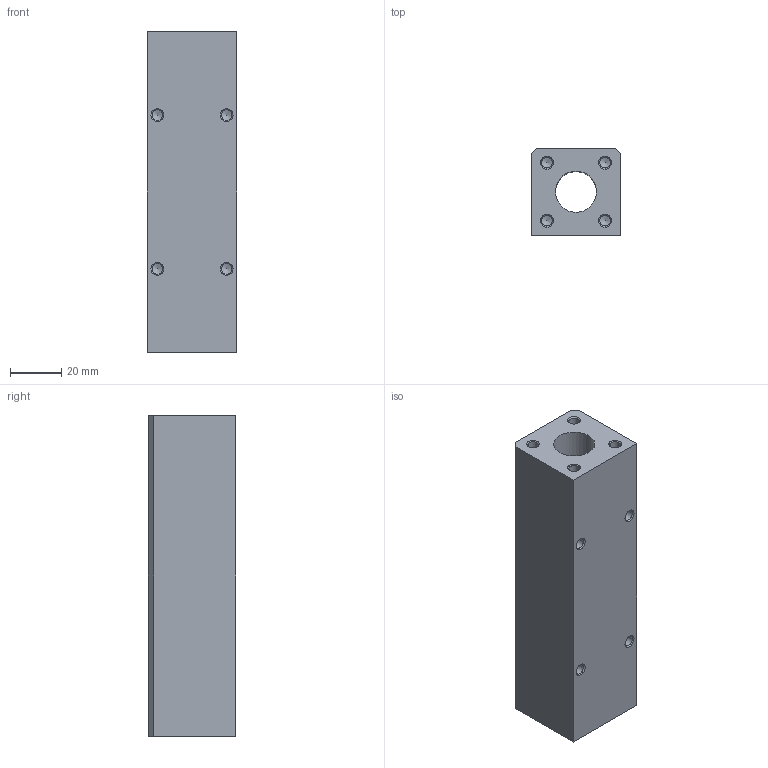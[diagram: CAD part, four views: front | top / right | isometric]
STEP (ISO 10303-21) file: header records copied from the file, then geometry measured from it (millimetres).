
FILE_DESCRIPTION( ( 'STEP AP214' ), '1' );
FILE_NAME( 'U:/Etudes/Top Solid/BIBLIO 3D AVM/STEP/PNEUMATIQUE/GUIDAGES/Accessoires/Paliers/513655_.step', '2005-05-04T12:39:26', ( ' ' ), ( ' ' ), 'XStep 1.0', ' ', ' ' );
FILE_SCHEMA( ( 'automotive_design' ) );
Length unit declared in the file: metre
Products named in the file (1): 1
Bounding box: 35 x 34 x 125 mm (x, y, z)
Volume: 121798.3 mm3; surface area: 26493.9 mm2
Topology: 1 solids, 1 shells, 65 faces, 141 edges, 94 vertices
Faces by surface type: cylinder 25, plane 24, cone 16
Full cylindrical faces by diameter (mm): 4.134 x16, 5.1 x8, 16 x1
Entity records: 1944 total; most frequent: DIRECTION 266, CARTESIAN_POINT 220, ORIENTED_EDGE 152, AXIS2_PLACEMENT_3D 124, EDGE_LOOP 124, FACE_OUTER_BOUND 90, VERTEX_POINT 78, EDGE_CURVE 76
